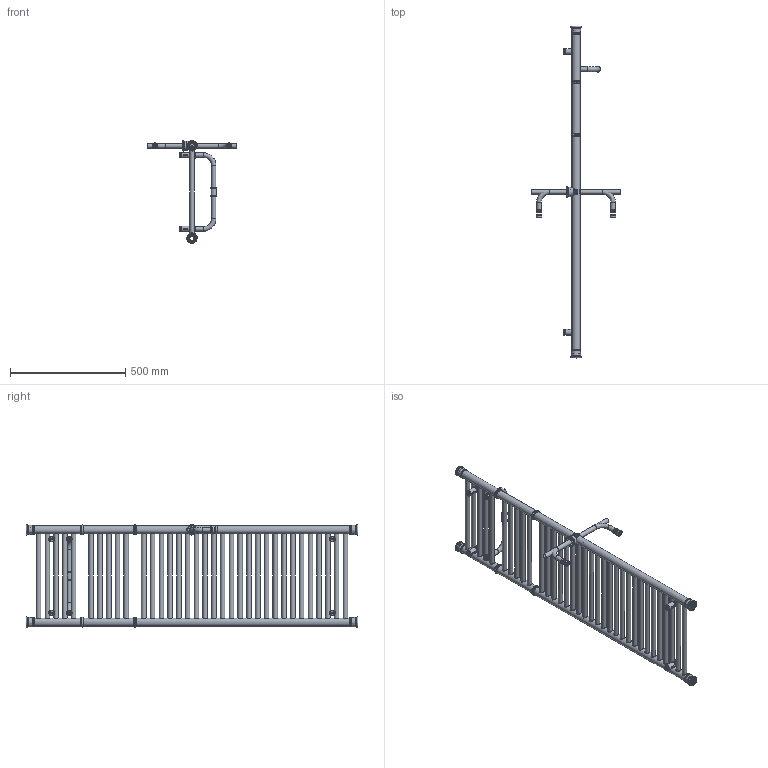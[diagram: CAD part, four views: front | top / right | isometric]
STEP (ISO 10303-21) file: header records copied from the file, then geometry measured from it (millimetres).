
FILE_DESCRIPTION( ( 'Unknown' ), '1' );
FILE_NAME( 'D:/Alplast sp. j/Witryna zespoBu - Projekty/Archiwum/Grzejniki Archiwum/Projekty/DESIGN PROGRAM/RETRO/Retro A6-400.stp', 'Unknown', ( 'Unknown' ), ( 'Unknown' ), 'PSStep 10.1', 'Unknown', ' ' );
FILE_SCHEMA( ( 'AUTOMOTIVE_DESIGN { 1 0 10303 214 1 1 1 1 }' ) );
Length unit declared in the file: millimetre
Products named in the file (65): katurek z wkrêtem do mocowania do  sciany; Assem1; mocowanie do œciany; suszarka Retro 400; Katurek fi 25 v4 ; wkrêt do katurka fi 25 v4; tulejka do mocowania grzejnika v3; mocowanie do grzejnika v3; zaœlepka do mocowania do œciany; detal-v3. par; element do suszarki do mocowania; element do suszarki do mocowania-oa0; tulejka do suszarki ; tulejka do suszarki -oa1; element do suszarki do mocowania ty³; element do suszarki do mocowania ty³-oa2; suszarka 400; kolektor Retro A6; kolektor Retro A6-oa3; Kana³ Prosty Retro 400; Kana³ Prosty Retro 400-oa4; Kana³ Prosty Retro 400-oa5; Kana³ Prosty Retro 400-oa6; Kana³ Prosty Retro 400-oa7; Kana³ Prosty Retro 400-oa8; Kana³ Prosty Retro 400-oa9; Kana³ Prosty Retro 400-oa10; Kana³ Prosty Retro 400-oa11; Kana³ Prosty Retro 400-oa12; Kana³ Prosty Retro 400-oa13; Kana³ Prosty Retro 400-oa14; Kana³ Prosty Retro 400-oa15; Kana³ Prosty Retro 400-oa16; Kana³ Prosty Retro 400-oa17; Kana³ Prosty Retro 400-oa18; Kana³ Prosty Retro 400-oa19; Kana³ Prosty Retro 400-oa20; Kana³ Prosty Retro 400-oa21; Kana³ Prosty Retro 400-oa22; Kana³ Prosty Retro 400-oa23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
Bounding box: 384 x 1438 x 444.91 mm (x, y, z)
Volume: 3029363 mm3; surface area: 4646378.8 mm2
Topology: 152 solids, 152 shells, 1204 faces, 2428 edges, 1562 vertices
Faces by surface type: cylinder 538, plane 362, torus 201, cone 84, bspline 12, sphere 7
Full cylindrical faces by diameter (mm): 4.917 x24, 5.9 x6, 6 x27, 6.3 x6, 6.4 x6, 15.5 x6, 17.5 x6, 17.6 x77, 18.631 x8, 20 x77, 20.3 x3, 20.5 x136, 20.6 x6, 21.15 x6, 21.9 x18, 22.8 x3, 24.5 x6, 25 x21, 25.25 x6, 25.3 x6, 32 x8, 32.4 x4, 35 x12, 35.3 x8, 35.5 x8, 39 x16, 41.15 x16
Entity records: 27967 total; most frequent: CARTESIAN_POINT 14727, DIRECTION 1828, ORIENTED_EDGE 1070, EDGE_LOOP 1052, AXIS2_PLACEMENT_3D 910, FACE_OUTER_BOUND 751, EDGE_CURVE 535, VERTEX_POINT 532
